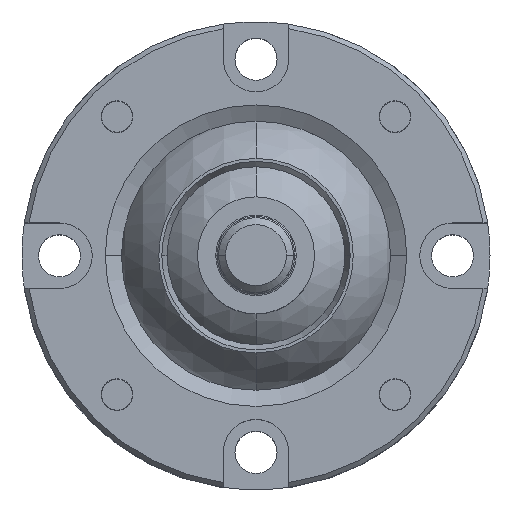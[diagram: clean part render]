
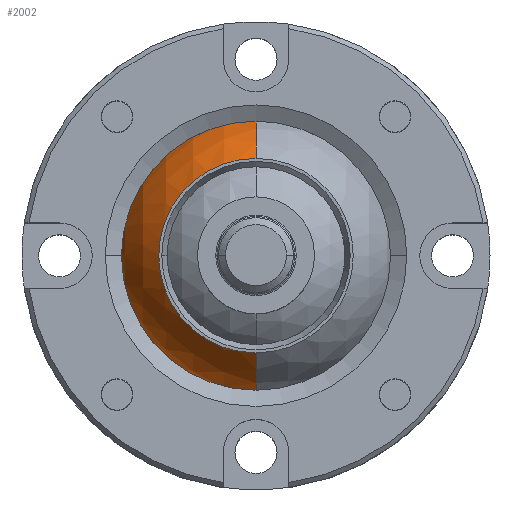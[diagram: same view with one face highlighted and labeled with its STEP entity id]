
A CAD part, top view. The second image highlights one B-rep face of the part: STEP entity #2002.
In plain terms, the highlighted spherical face has radius 31 mm.
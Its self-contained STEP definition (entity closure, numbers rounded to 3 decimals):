
#20 = VERTEX_POINT ( 'NONE', #4778 ) ;
#137 = EDGE_CURVE ( 'NONE', #555, #2218, #6628, .T. ) ;
#555 = VERTEX_POINT ( 'NONE', #682 ) ;
#578 = CARTESIAN_POINT ( 'NONE',  ( 0., -20.785, 23. ) ) ;
#682 = CARTESIAN_POINT ( 'NONE',  ( 0., -20.785, -23. ) ) ;
#726 = DIRECTION ( 'NONE',  ( 0., 0., 1. ) ) ;
#1182 = AXIS2_PLACEMENT_3D ( 'NONE', #6248, #5649, #1839 ) ;
#1212 = DIRECTION ( 'NONE',  ( -1., 0., 0. ) ) ;
#1293 = CIRCLE ( 'NONE', #1182, 20.785 ) ;
#1377 = FACE_OUTER_BOUND ( 'NONE', #6054, .T. ) ;
#1609 = ORIENTED_EDGE ( 'NONE', *, *, #4894, .F. ) ;
#1770 = CARTESIAN_POINT ( 'NONE',  ( 0., 0., 0. ) ) ;
#1839 = DIRECTION ( 'NONE',  ( 1., 0., 0. ) ) ;
#1856 = AXIS2_PLACEMENT_3D ( 'NONE', #3511, #4488, #5645 ) ;
#1919 = ORIENTED_EDGE ( 'NONE', *, *, #137, .T. ) ;
#2002 = ADVANCED_FACE ( 'NONE', ( #1377 ), #5080, .T. ) ;
#2160 = CIRCLE ( 'NONE', #6065, 31. ) ;
#2218 = VERTEX_POINT ( 'NONE', #578 ) ;
#2254 = DIRECTION ( 'NONE',  ( 1., 0., 0. ) ) ;
#2281 = CARTESIAN_POINT ( 'NONE',  ( 0., 20.785, -23. ) ) ;
#2826 = AXIS2_PLACEMENT_3D ( 'NONE', #1770, #1212, #6520 ) ;
#3511 = CARTESIAN_POINT ( 'NONE',  ( 0., 0., 0. ) ) ;
#3730 = EDGE_CURVE ( 'NONE', #6815, #555, #1293, .T. ) ;
#4488 = DIRECTION ( 'NONE',  ( -1., 0., 0. ) ) ;
#4542 = AXIS2_PLACEMENT_3D ( 'NONE', #6108, #726, #2254 ) ;
#4778 = CARTESIAN_POINT ( 'NONE',  ( 0., 20.785, 23. ) ) ;
#4883 = DIRECTION ( 'NONE',  ( 0., 0., -1. ) ) ;
#4894 = EDGE_CURVE ( 'NONE', #20, #2218, #6788, .T. ) ;
#4945 = DIRECTION ( 'NONE',  ( 1., 0., 0. ) ) ;
#4989 = CARTESIAN_POINT ( 'NONE',  ( 0., 0., 0. ) ) ;
#5049 = ORIENTED_EDGE ( 'NONE', *, *, #3730, .T. ) ;
#5080 = SPHERICAL_SURFACE ( 'NONE', #1856, 31. ) ;
#5645 = DIRECTION ( 'NONE',  ( 0., 1., 0. ) ) ;
#5649 = DIRECTION ( 'NONE',  ( 0., 0., 1. ) ) ;
#5919 = EDGE_CURVE ( 'NONE', #6815, #20, #2160, .T. ) ;
#6054 = EDGE_LOOP ( 'NONE', ( #5049, #1919, #1609, #6515 ) ) ;
#6065 = AXIS2_PLACEMENT_3D ( 'NONE', #4989, #4945, #4883 ) ;
#6108 = CARTESIAN_POINT ( 'NONE',  ( 0., 0., 23. ) ) ;
#6248 = CARTESIAN_POINT ( 'NONE',  ( 0., 0., -23. ) ) ;
#6515 = ORIENTED_EDGE ( 'NONE', *, *, #5919, .F. ) ;
#6520 = DIRECTION ( 'NONE',  ( 0., 0., 1. ) ) ;
#6628 = CIRCLE ( 'NONE', #2826, 31. ) ;
#6788 = CIRCLE ( 'NONE', #4542, 20.785 ) ;
#6815 = VERTEX_POINT ( 'NONE', #2281 ) ;
